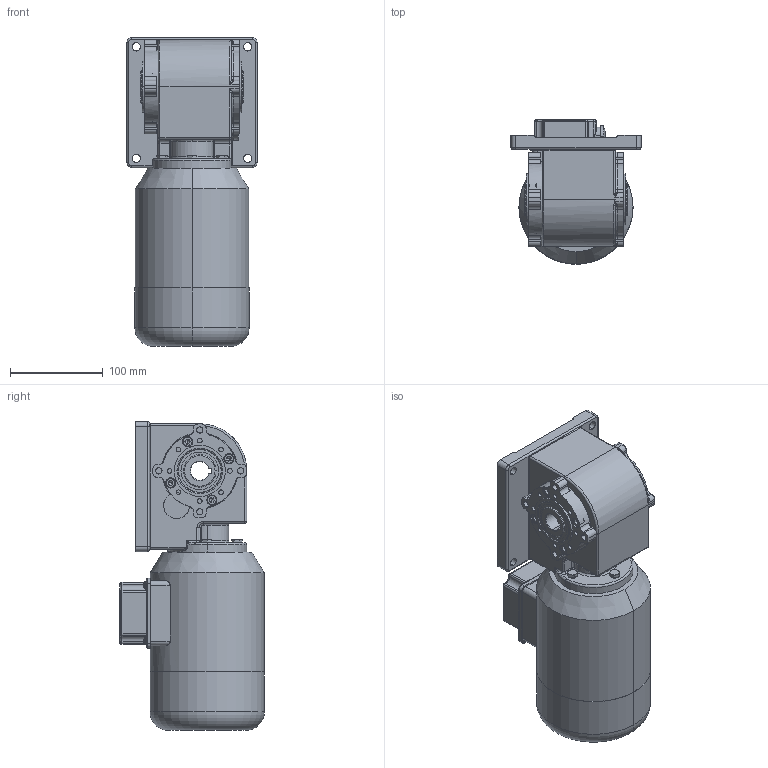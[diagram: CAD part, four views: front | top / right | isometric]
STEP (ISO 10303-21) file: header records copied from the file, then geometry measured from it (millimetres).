
FILE_DESCRIPTION (( 'STEP AP214' ), '1' );
FILE_NAME ('SN13H_120W_250W_Drehstrom-Motor_C.STEP', '2022-03-15T15:35:14', ( '' ), ( '' ), 'SwSTEP 2.0', 'SolidWorks 2019', '' );
FILE_SCHEMA (( 'AUTOMOTIVE_DESIGN' ));
Length unit declared in the file: millimetre
Products named in the file (13): 03-M-268 I 250W_2800Upm; K_28x9.0; 13FH-F-001_3D-Export; hex screw gradeab_iso_ISO 4017 - M6 x 20-C; 13H-W-003_3D-Export; 13H-D-001_3D_Export; SN13H_3D_Export; 13-G-004_3D-Export; NBR_WDR_30x47x7; socket set screw flat point_iso_ISO 4026 - M6 x 30-C; socket head cap screw_iso_ISO 4762 M6 x 16 - 16C; SN13H_120W_250W_Drehstrom-Motor_C; Kupferscheibe Ø6x10x1 DIN7603 A
Assembly tree (27 placements, depth 3):
  SN13H_120W_250W_Drehstrom-Motor_C
    SN13H_3D_Export
      13-G-004_3D-Export
      13H-D-001_3D_Export
      13FH-F-001_3D-Export
      K_28x9.0
      13H-W-003_3D-Export
      NBR_WDR_30x47x7  x2
      Kupferscheibe Ø6x10x1 DIN7603 A  x4
      hex screw gradeab_iso_ISO 4017 - M6 x 20-C  x3
      socket set screw flat point_iso_ISO 4026 - M6 x 30-C
      socket head cap screw_iso_ISO 4762 M6 x 16 - 16C  x10
    03-M-268 I 250W_2800Upm
Bounding box: 140 x 155.7 x 332.5 mm (x, y, z)
Volume: 3567940.6 mm3; surface area: 323922.4 mm2
Topology: 27 solids, 27 shells, 1331 faces, 3200 edges, 1924 vertices
Faces by surface type: cylinder 470, plane 377, cone 216, torus 208, bspline 31, sphere 29
Entity records: 33151 total; most frequent: CARTESIAN_POINT 7835, DIRECTION 5479, ORIENTED_EDGE 4792, EDGE_CURVE 2396, AXIS2_PLACEMENT_3D 2314, VERTEX_POINT 1499, CIRCLE 1332, EDGE_LOOP 1111
